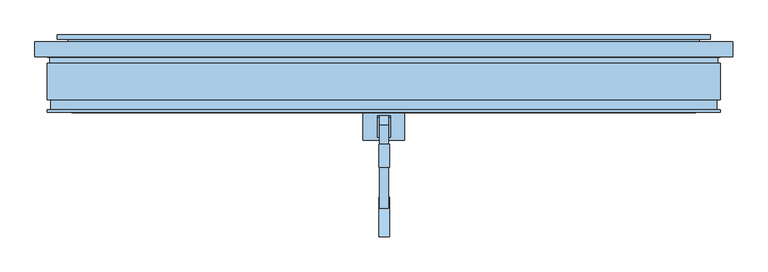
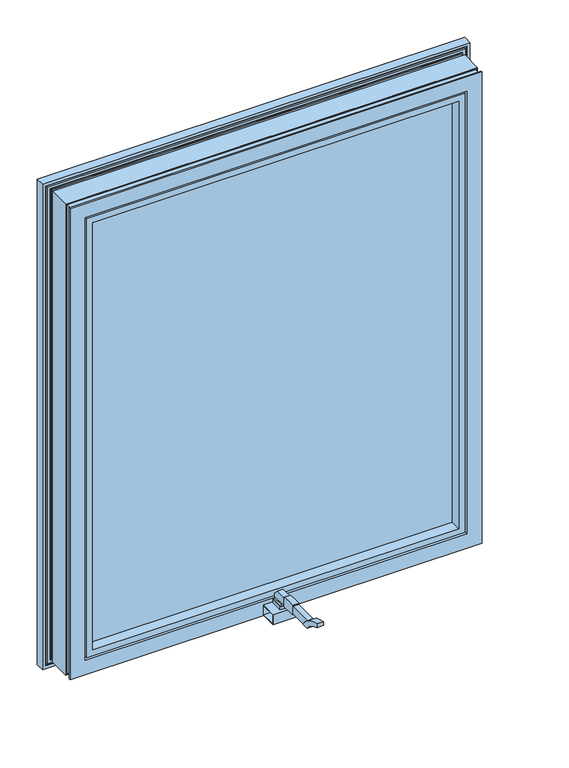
"""IFC4 building model written with IfcOpenShell, lengths in millimetres: window geometry, Comfort+_CKR-1_Metaglas : KozijnMerk."""

from ifc_helpers import new_model, si_unit, point, frame, frame_2d, origin, place, context, project, spatial, polyline, circle_curve, ellipse_curve, trimmed, segment, composite_curve, outline, extrude, faceted_brep, source, transform, mapped, element, save
from ifc_brep_helpers import plane_surface, cylinder_surface, extruded_surface, advanced_brep


def window_e89d8955(model_context):
    return source(origin(), model_context, "Body", "SolidModel", [
        extrude(outline(polyline([(-9.0, -55.284441), (10.0, -55.284441), (10.0, -83.3611653), (-9.0, -83.3611653), (-9.0, -55.284441)])), frame((0.0, 0.0, 844.5), z_axis=(0.0, 0.0, 1.0), x_axis=(1.0, 0.0, 0.0)), (0.0, 0.0, 1.0), 8.950006),
        extrude(outline(composite_curve([segment(polyline([(-96.3236284, 882.5887927), (-96.3236284, 859.5700029), (-129.3927548, 859.5700029), (-129.3927548, 882.5889399)]), True, "CONTINUOUS"), segment(trimmed(circle_curve(frame_2d((-112.8585409, 804.1500307)), 80.1626017), [point((-129.3927548, 882.5889399))], [point((-96.3236284, 882.5887927))], False, "CARTESIAN"), True, "CONTINUOUS")], self_intersect=False)), frame((-7.0, 0.0, 0.0), z_axis=(1.0, 0.0, 0.0), x_axis=(0.0, 1.0, 0.0)), (0.0, 0.0, 1.0), 15.0),
        extrude(outline(polyline([(10.0, -58.5425593), (10.0, -86.3809749), (-9.0, -86.3809749), (-9.0, -58.5425593), (10.0, -58.5425593)])), frame((0.0, 0.0, 853.5153382), z_axis=(0.0, 0.0, 1.0), x_axis=(1.0, 0.0, 0.0)), (0.0, 0.0, 1.0), 6.0546648),
        extrude(outline(composite_curve([segment(polyline([(-55.3223597, 867.0214623), (-55.3223597, 859.5700029), (-96.3236284, 859.5700029), (-96.3236284, 880.1499927), (-68.2804943, 880.1499927)]), True, "CONTINUOUS"), segment(trimmed(circle_curve(frame_2d((-118.3585627, 817.7626489)), 79.99996), [point((-68.2804943, 880.1499927))], [point((-55.3223597, 867.0214623))], False, "CARTESIAN"), True, "CONTINUOUS")], self_intersect=False)), frame((-6.0, 0.0, 0.0), z_axis=(1.0, 0.0, 0.0), x_axis=(0.0, 1.0, 0.0)), (0.0, 0.0, 1.0), 13.0),
        extrude(outline(composite_curve([segment(polyline([(-129.3927548, 861.6503614), (-172.0469414, 861.6503614)]), True, "CONTINUOUS"), segment(trimmed(circle_curve(frame_2d((-236.9307695, 820.7823169)), 76.6818636), [point((-172.0469414, 861.6503614))], [point((-188.3963767, 880.1499927))], True, "CARTESIAN"), True, "CONTINUOUS"), segment(polyline([(-188.3963767, 880.1499927), (-129.3927548, 880.1499927), (-129.3927548, 861.6503614)]), True, "CONTINUOUS")], self_intersect=False)), frame((-6.0, 0.0, 0.0), z_axis=(1.0, 0.0, 0.0), x_axis=(0.0, 1.0, 0.0)), (0.0, 0.0, 1.0), 13.0),
        advanced_brep(
        [(8.0, -187.7875946, 861.6503614), (8.0, -172.0469414, 861.6503614), (8.0, -228.9682216, 897.0496496), (8.0, -228.9682216, 888.163112), (-7.0, -187.7875946, 861.6503614), (-7.0, -228.9682216, 888.163112), (-7.0, -228.9682216, 897.0496496), (-7.0, -172.0469414, 861.6503614)],
        [
            (0, 1),
            (1, 2, circle_curve(frame((8.0, -236.9307695, 820.7823169), z_axis=(1.0, 0.0, 0.0), x_axis=(0.0, 1.0, 0.0)), 76.6818636)),
            (2, 3),
            (3, 0, ellipse_curve(frame((8.0, -249.6009221, 810.8697182), z_axis=(-1.0, 0.0, 0.0), x_axis=(0.0, 0.4613232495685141, -0.8872321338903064)), 80.0022115, 79.9970362)),
            (4, 5, ellipse_curve(frame((-7.0, -249.6009221, 810.8697182), z_axis=(1.0, 0.0, 0.0), x_axis=(0.0, 0.4613232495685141, -0.8872321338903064)), 80.0022115, 79.9970362)),
            (5, 6),
            (6, 7, circle_curve(frame((-7.0, -236.9307695, 820.7823169), z_axis=(-1.0, 0.0, 0.0), x_axis=(0.0, 1.0, 0.0)), 76.6818636)),
            (7, 4),
            (0, 4),
            (7, 1),
            (6, 2),
            (5, 3),
        ],
        [
            plane_surface(frame((8.0, -172.0469414, 861.6503614), z_axis=(1.0, 0.0, 0.0), x_axis=(0.0, 1.0, 0.0))),
            plane_surface(frame((-7.0, -172.0469414, 861.6503614), z_axis=(-1.0, 0.0, 0.0), x_axis=(0.0, -1.0, 0.0))),
            plane_surface(frame((8.0, -187.7875946, 861.6503614), z_axis=(0.0, 0.0, -1.0), x_axis=(-1.0, 0.0, 0.0))),
            cylinder_surface(frame((-7.0, -236.9307695, 820.7823169), z_axis=(1.0, 0.0, 0.0), x_axis=(0.0, 1.0, 0.0)), 76.6818636),
            plane_surface(frame((8.0, -228.9682216, 897.0496496), z_axis=(0.0, -1.0, 0.0), x_axis=(-1.0, 0.0, 0.0))),
            extruded_surface(trimmed(ellipse_curve(frame((-22.0, -249.6009221, 810.8697182), z_axis=(-1.0, 0.0, 0.0), x_axis=(0.0, 0.4613232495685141, -0.8872321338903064)), 80.0022115, 79.9970362), [point((-22.0, -228.9682216, 888.163112))], [point((-22.0, -187.7875946, 861.6503614))], True, "CARTESIAN"), (15.0, 0.0, 0.0), 15.0),
        ],
        [
            (0, [[1, 2, 3, 4]]),
            (1, [[5, 6, 7, 8]]),
            (2, [[-1, 9, -8, 10]]),
            (3, [[-2, -10, -7, 11]]),
            (4, [[-3, -11, -6, 12]]),
            (5, [[-4, -12, -5, -9]]),
        ],
    ),
        extrude(outline(polyline([(-442.0, 26.0), (442.0, 26.0), (442.0, 20.0), (-442.0, 20.0), (-442.0, 26.0)])), frame((0.0, 0.0, 858.0), z_axis=(0.0, 0.0, 1.0), x_axis=(1.0, 0.0, 0.0)), (0.0, 0.0, 1.0), 1084.0),
        extrude(outline(polyline([(-442.0, 5.0), (442.0, 5.0), (442.0, 0.5), (-442.0, 0.5), (-442.0, 5.0)])), frame((0.0, 0.0, 858.0), z_axis=(0.0, 0.0, 1.0), x_axis=(1.0, 0.0, 0.0)), (0.0, 0.0, 1.0), 1084.0),
        extrude(outline(polyline([(-442.0, -14.5), (442.0, -14.5), (442.0, -20.5), (-442.0, -20.5), (-442.0, -14.5)])), frame((0.0, 0.0, 858.0), z_axis=(0.0, 0.0, 1.0), x_axis=(1.0, 0.0, 0.0)), (0.0, 0.0, 1.0), 1084.0),
        extrude(outline(polyline([(858.0, -442.0), (858.0, 442.0), (1942.0, 442.0), (1942.0, -442.0), (858.0, -442.0)]), holes=[polyline([(1930.0, -430.0), (1930.0, 430.0), (870.0, 430.0), (870.0, -430.0), (1930.0, -430.0)])]), frame((0.0, 5.0, 0.0), z_axis=(0.0, 1.0, 0.0), x_axis=(0.0, 0.0, 1.0)), (0.0, 0.0, 1.0), 15.0),
        extrude(outline(polyline([(858.0, -442.0), (858.0, 442.0), (1942.0, 442.0), (1942.0, -442.0), (858.0, -442.0)]), holes=[polyline([(1930.0, -430.0), (1930.0, 430.0), (870.0, 430.0), (870.0, -430.0), (1930.0, -430.0)])]), frame((0.0, -14.5, 0.0), z_axis=(0.0, 1.0, 0.0), x_axis=(0.0, 0.0, 1.0)), (0.0, 0.0, 1.0), 15.0),
        faceted_brep([(427.9999691, 28.0000056, 1927.9999691), (427.9999691, 60.0, 1927.9999691), (427.9999691, 60.0, 872.0000309), (427.9999691, 28.0000056, 872.0000309), (468.0, 60.0, 1968.0), (468.0, 60.0, 832.0), (-468.0, 60.0, 832.0), (-468.0, 60.0, 1968.0), (-427.9999691, 60.0, 1927.9999691), (-427.9999691, 60.0, 872.0000309), (-427.9999691, 28.0000056, 872.0000309), (-444.0999691, 28.0000056, 1944.0999691), (-444.0999691, 28.0000056, 855.9000309), (444.0999691, 28.0000056, 855.9000309), (444.0999691, 28.0000056, 1944.0999691), (-427.9999691, 28.0000056, 1927.9999691), (444.0999691, -23.3943263, 1944.0999691), (444.0999691, -23.3943263, 855.9000309), (-444.0999691, -23.3943263, 855.9000309), (441.3734556, -24.3999751, 1941.3734556), (441.3734556, -24.3999751, 858.6265444), (-441.3734556, -24.3999751, 858.6265444), (-441.3734556, -24.3999751, 1941.3734556), (-434.2601913, -24.3999751, 1934.2601913), (-434.2601913, -24.3999751, 865.7398087), (434.2601913, -24.3999751, 865.7398087), (434.2601913, -24.3999751, 1934.2601913), (434.2601913, -27.610299, 1934.2601913), (434.2601913, -27.610299, 865.7398087), (-434.2601913, -27.610299, 865.7398087), (-434.2601913, -27.610299, 1934.2601913), (-430.3897468, -27.610299, 1930.3897468), (-430.3897468, -27.610299, 869.6102532), (430.3897468, -27.610299, 869.6102532), (430.3897468, -27.610299, 1930.3897468), (430.3897468, -24.3999751, 1930.3897468), (430.3897468, -24.3999751, 869.6102532), (-430.3897468, -24.3999751, 869.6102532), (-430.3897468, -24.3999751, 1930.3897468), (-427.9999691, -24.3999751, 1927.9999691), (-427.9999691, -24.3999751, 872.0000309), (427.9999691, -24.3999751, 872.0000309), (427.9999691, -24.3999751, 1927.9999691), (427.9999691, -50.3999751, 1927.9999691), (427.9999691, -50.3999751, 872.0000309), (-427.9999691, -50.3999751, 872.0000309), (-442.3999232, -50.3999751, 1942.3999232), (-442.3999232, -50.3999751, 857.6000768), (442.3999232, -50.3999751, 857.6000768), (442.3999232, -50.3999751, 1942.3999232), (-427.9999691, -50.3999751, 1927.9999691), (442.3999232, -35.8749751, 1942.3999232), (442.3999232, -35.8749751, 857.6000768), (-442.3999232, -35.8749751, 857.6000768), (-442.3999232, -35.8749751, 1942.3999232), (-440.0499232, -35.8749751, 1940.0499232), (-440.0499232, -35.8749751, 859.9500768), (440.0499232, -35.8749751, 859.9500768), (440.0499232, -35.8749751, 1940.0499232), (440.0499232, -32.9249751, 1940.0499232), (440.0499232, -32.9249751, 859.9500768), (-440.0499232, -32.9249751, 859.9500768), (-442.3999232, -32.9249751, 1942.3999232), (-442.3999232, -32.9249751, 857.6000768), (442.3999232, -32.9249751, 857.6000768), (442.3999232, -32.9249751, 1942.3999232), (-440.0499232, -32.9249751, 1940.0499232), (442.3999232, -27.9527642, 1942.3999232), (442.3999232, -27.9527642, 857.6000768), (-442.3999232, -27.9527642, 857.6000768), (444.4527122, -25.8999751, 1944.4527122), (444.4527122, -25.8999751, 855.5472878), (-444.4527122, -25.8999751, 855.5472878), (-452.5013297, -25.8999751, 1952.5013297), (-452.5013297, -25.8999751, 847.4986703), (452.5013297, -25.8999751, 847.4986703), (452.5013297, -25.8999751, 1952.5013297), (-444.4527122, -25.8999751, 1944.4527122), (452.5013297, 33.0500056, 1952.5013297), (452.5013297, 33.0500056, 847.4986703), (-452.5013297, 33.0500056, 847.4986703), (-452.5013297, 33.0500056, 1952.5013297), (-451.0, 33.0500056, 1951.0), (-451.0, 33.0500056, 849.0), (451.0, 33.0500056, 849.0), (451.0, 33.0500056, 1951.0), (451.0, 30.5500056, 1951.0), (451.0, 30.5500056, 849.0), (-451.0, 30.5500056, 849.0), (-451.0, 30.5500056, 1951.0), (-447.993792, 30.5500056, 1947.993792), (-447.993792, 30.5500056, 852.006208), (447.993792, 30.5500056, 852.006208), (447.993792, 30.5500056, 1947.993792), (447.993792, 33.0500056, 1947.993792), (447.993792, 33.0500056, 852.006208), (-447.993792, 33.0500056, 852.006208), (-447.993792, 33.0500056, 1947.993792), (-446.50005, 33.0500056, 1946.50005), (-446.50005, 33.0500056, 853.49995), (446.50005, 33.0500056, 853.49995), (446.50005, 33.0500056, 1946.50005), (446.50005, 48.049079, 1946.50005), (446.50005, 48.049079, 853.49995), (-446.50005, 48.049079, 853.49995), (-448.00002, 48.049079, 1948.00002), (-448.00002, 48.049079, 851.99998), (448.00002, 48.049079, 851.99998), (448.00002, 48.049079, 1948.00002), (-446.50005, 48.049079, 1946.50005), (448.00002, 50.549712, 1948.00002), (448.00002, 50.549712, 851.99998), (-448.00002, 50.549712, 851.99998), (-451.0, 50.549712, 1951.0), (-451.0, 50.549712, 849.0), (451.0, 50.549712, 849.0), (451.0, 50.549712, 1951.0), (-448.00002, 50.549712, 1948.00002), (451.0, 48.049079, 1951.0), (451.0, 48.049079, 849.0), (-451.0, 48.049079, 849.0), (-452.5013297, 48.049079, 1952.5013297), (-452.5013297, 48.049079, 847.4986703), (452.5013297, 48.049079, 847.4986703), (452.5013297, 48.049079, 1952.5013297), (-451.0, 48.049079, 1951.0), (452.5013297, 54.0000056, 1952.5013297), (452.5013297, 54.0000056, 847.4986703), (-452.5013297, 54.0000056, 847.4986703), (-462.0431852, 54.0000056, 1962.0431852), (-462.0431852, 54.0000056, 837.9568148), (462.0431852, 54.0000056, 837.9568148), (462.0431852, 54.0000056, 1962.0431852), (-452.5013297, 54.0000056, 1952.5013297), (462.0431852, 57.3536919, 1962.0431852), (462.0431852, 57.3536919, 837.9568148), (-462.0431852, 57.3536919, 837.9568148), (-465.9068148, 57.3536919, 1965.9068148), (-465.9068148, 57.3536919, 834.0931852), (465.9068148, 57.3536919, 834.0931852), (465.9068148, 57.3536919, 1965.9068148), (-462.0431852, 57.3536919, 1962.0431852), (465.9068148, 54.0000056, 1965.9068148), (465.9068148, 54.0000056, 834.0931852), (-465.9068148, 54.0000056, 834.0931852), (-468.0, 54.0000056, 1968.0), (-468.0, 54.0000056, 832.0), (468.0, 54.0000056, 832.0), (468.0, 54.0000056, 1968.0), (-465.9068148, 54.0000056, 1965.9068148), (-444.0999691, -23.3943263, 1944.0999691), (-442.3999232, -27.9527642, 1942.3999232)], [[[0, 1, 2, 3]], [[4, 5, 6, 7], [8, 9, 2, 1]], [[3, 2, 9, 10]], [[11, 12, 13, 14], [0, 3, 10, 15]], [[16, 14, 13, 17]], [[17, 13, 12, 18]], [[19, 16, 17, 20]], [[20, 17, 18, 21]], [[19, 20, 21, 22], [23, 24, 25, 26]], [[27, 26, 25, 28]], [[28, 25, 24, 29]], [[27, 28, 29, 30], [31, 32, 33, 34]], [[35, 34, 33, 36]], [[36, 33, 32, 37]], [[35, 36, 37, 38], [39, 40, 41, 42]], [[43, 42, 41, 44]], [[44, 41, 40, 45]], [[46, 47, 48, 49], [43, 44, 45, 50]], [[51, 49, 48, 52]], [[52, 48, 47, 53]], [[51, 52, 53, 54], [55, 56, 57, 58]], [[59, 58, 57, 60]], [[60, 57, 56, 61]], [[62, 63, 64, 65], [59, 60, 61, 66]], [[67, 65, 64, 68]], [[68, 64, 63, 69]], [[70, 67, 68, 71]], [[71, 68, 69, 72]], [[73, 74, 75, 76], [70, 71, 72, 77]], [[78, 76, 75, 79]], [[79, 75, 74, 80]], [[78, 79, 80, 81], [82, 83, 84, 85]], [[86, 85, 84, 87]], [[87, 84, 83, 88]], [[86, 87, 88, 89], [90, 91, 92, 93]], [[94, 93, 92, 95]], [[95, 92, 91, 96]], [[94, 95, 96, 97], [98, 99, 100, 101]], [[102, 101, 100, 103]], [[103, 100, 99, 104]], [[105, 106, 107, 108], [102, 103, 104, 109]], [[110, 108, 107, 111]], [[111, 107, 106, 112]], [[113, 114, 115, 116], [110, 111, 112, 117]], [[118, 116, 115, 119]], [[119, 115, 114, 120]], [[121, 122, 123, 124], [118, 119, 120, 125]], [[126, 124, 123, 127]], [[127, 123, 122, 128]], [[129, 130, 131, 132], [126, 127, 128, 133]], [[134, 132, 131, 135]], [[135, 131, 130, 136]], [[137, 138, 139, 140], [134, 135, 136, 141]], [[142, 140, 139, 143]], [[143, 139, 138, 144]], [[145, 146, 147, 148], [142, 143, 144, 149]], [[4, 148, 147, 5]], [[5, 147, 146, 6]], [[10, 9, 8, 15]], [[18, 12, 11, 150]], [[21, 18, 150, 22]], [[29, 24, 23, 30]], [[37, 32, 31, 38]], [[45, 40, 39, 50]], [[53, 47, 46, 54]], [[61, 56, 55, 66]], [[69, 63, 62, 151]], [[72, 69, 151, 77]], [[80, 74, 73, 81]], [[88, 83, 82, 89]], [[96, 91, 90, 97]], [[104, 99, 98, 109]], [[112, 106, 105, 117]], [[120, 114, 113, 125]], [[128, 122, 121, 133]], [[136, 130, 129, 141]], [[144, 138, 137, 149]], [[6, 146, 145, 7]], [[15, 8, 1, 0]], [[150, 11, 14, 16]], [[22, 150, 16, 19]], [[30, 23, 26, 27]], [[38, 31, 34, 35]], [[50, 39, 42, 43]], [[54, 46, 49, 51]], [[66, 55, 58, 59]], [[151, 62, 65, 67]], [[77, 151, 67, 70]], [[81, 73, 76, 78]], [[89, 82, 85, 86]], [[97, 90, 93, 94]], [[109, 98, 101, 102]], [[117, 105, 108, 110]], [[125, 113, 116, 118]], [[133, 121, 124, 126]], [[141, 129, 132, 134]], [[149, 137, 140, 142]], [[7, 145, 148, 4]]]),
        faceted_brep([(-492.8725928, 32.3765351, 1992.8725928), (-492.8725928, 29.0, 1992.8725928), (-492.8725928, 29.0, 807.1274072), (-492.8725928, 32.3765351, 807.1274072), (-500.0, 29.0, 800.0), (500.0, 29.0, 800.0), (500.0, 29.0, 2000.0), (-500.0, 29.0, 2000.0), (492.8725928, 29.0, 1992.8725928), (492.8725928, 29.0, 807.1274072), (492.8725928, 32.3765351, 807.1274072), (492.8725928, 32.3765351, 1992.8725928), (-489.0089631, 32.3765351, 1989.0089631), (489.0089631, 32.3765351, 1989.0089631), (489.0089631, 32.3765351, 810.9910369), (-489.0089631, 32.3765351, 810.9910369), (-489.0089631, 29.0, 1989.0089631), (-489.0089631, 29.0, 810.9910369), (489.0089631, 29.0, 810.9910369), (489.0089631, 29.0, 1989.0089631), (-481.9850614, 29.0, 1981.9850614), (481.9850614, 29.0, 1981.9850614), (481.9850614, 29.0, 818.0149386), (-481.9850614, 29.0, 818.0149386), (-481.9850614, 27.9608904, 1981.9850614), (-481.9850614, 27.9608904, 818.0149386), (481.9850614, 27.9608904, 818.0149386), (481.9850614, 27.9608904, 1981.9850614), (-478.7447337, 27.9608904, 1978.7447337), (478.7447337, 27.9608904, 1978.7447337), (478.7447337, 27.9608904, 821.2552663), (-478.7447337, 27.9608904, 821.2552663), (-478.7447337, 19.1940428, 1978.7447337), (-478.7447337, 19.1940428, 821.2552663), (478.7447337, 19.1940428, 821.2552663), (-481.9850614, 19.1940428, 1981.9850614), (481.9850614, 19.1940428, 1981.9850614), (481.9850614, 19.1940428, 818.0149386), (-481.9850614, 19.1940428, 818.0149386), (478.7447337, 19.1940428, 1978.7447337), (-481.9850614, -33.0, 1981.9850614), (-481.9850614, -33.0, 818.0149386), (481.9850614, -33.0, 818.0149386), (481.9850614, -33.0, 1981.9850614), (-480.4999232, -33.0, 1980.4999232), (480.4999232, -33.0, 1980.4999232), (480.4999232, -33.0, 819.5000768), (-480.4999232, -33.0, 819.5000768), (-480.4999232, -31.0, 1980.4999232), (-480.4999232, -31.0, 819.5000768), (480.4999232, -31.0, 819.5000768), (480.4999232, -31.0, 1980.4999232), (-477.4912716, -31.0, 1977.4912716), (477.4912716, -31.0, 1977.4912716), (477.4912716, -31.0, 822.5087284), (-477.4912716, -31.0, 822.5087284), (-477.4912716, -49.0, 1977.4912716), (-477.4912716, -49.0, 822.5087284), (477.4912716, -49.0, 822.5087284), (-480.4999232, -49.0, 1980.4999232), (480.4999232, -49.0, 1980.4999232), (480.4999232, -49.0, 819.5000768), (-480.4999232, -49.0, 819.5000768), (477.4912716, -49.0, 1977.4912716), (-480.4999232, -47.0, 1980.4999232), (-480.4999232, -47.0, 819.5000768), (480.4999232, -47.0, 819.5000768), (-481.9850614, -47.0, 1981.9850614), (481.9850614, -47.0, 1981.9850614), (481.9850614, -47.0, 818.0149386), (-481.9850614, -47.0, 818.0149386), (480.4999232, -47.0, 1980.4999232), (-481.9850614, -51.0307326, 1981.9850614), (-481.9850614, -51.0307326, 818.0149386), (481.9850614, -51.0307326, 818.0149386), (481.9850614, -51.0307326, 1981.9850614), (-446.9850614, -51.0307326, 1946.9850614), (446.9850614, -51.0307326, 1946.9850614), (446.9850614, -51.0307326, 853.0149386), (-446.9850614, -51.0307326, 853.0149386), (-446.9850614, -30.0, 1946.9850614), (-446.9850614, -30.0, 853.0149386), (446.9850614, -30.0, 853.0149386), (-454.1273304, -30.0, 1954.1273304), (454.1273304, -30.0, 1954.1273304), (454.1273304, -30.0, 845.8726696), (-454.1273304, -30.0, 845.8726696), (446.9850614, -30.0, 1946.9850614), (-454.1273304, -33.1902947, 1954.1273304), (-454.1273304, -33.1902947, 845.8726696), (454.1273304, -33.1902947, 845.8726696), (-457.9909601, -33.1902947, 1957.9909601), (457.9909601, -33.1902947, 1957.9909601), (457.9909601, -33.1902947, 842.0090399), (-457.9909601, -33.1902947, 842.0090399), (454.1273304, -33.1902947, 1954.1273304), (-457.9909601, -30.0, 1957.9909601), (-457.9909601, -30.0, 842.0090399), (457.9909601, -30.0, 842.0090399), (-465.0, -30.0, 1965.0), (465.0, -30.0, 1965.0), (465.0, -30.0, 835.0), (-465.0, -30.0, 835.0), (457.9909601, -30.0, 1957.9909601), (-465.0, -28.9608904, 1965.0), (-465.0, -28.9608904, 835.0), (465.0, -28.9608904, 835.0), (-468.2224333, -28.9608904, 1968.2224333), (468.2224333, -28.9608904, 1968.2224333), (468.2224333, -28.9608904, 831.7775667), (-468.2224333, -28.9608904, 831.7775667), (465.0, -28.9608904, 1965.0), (-468.2224333, -20.1940428, 1968.2224333), (-468.2224333, -20.1940428, 831.7775667), (468.2224333, -20.1940428, 831.7775667), (468.2224333, -20.1940428, 1968.2224333), (-465.0, -20.1940428, 1965.0), (465.0, -20.1940428, 1965.0), (465.0, -20.1940428, 835.0), (-465.0, -20.1940428, 835.0), (-465.0, 32.0, 1965.0), (-465.0, 32.0, 835.0), (465.0, 32.0, 835.0), (-466.502736, 32.0, 1966.502736), (466.502736, 32.0, 1966.502736), (466.502736, 32.0, 833.497264), (-466.502736, 32.0, 833.497264), (465.0, 32.0, 1965.0), (-466.502736, 30.0, 1966.502736), (-466.502736, 30.0, 833.497264), (466.502736, 30.0, 833.497264), (-469.5, 30.0, 1969.5), (469.5, 30.0, 1969.5), (469.5, 30.0, 830.5), (-469.5, 30.0, 830.5), (466.502736, 30.0, 1966.502736), (-469.5, 48.0, 1969.5), (-469.5, 48.0, 830.5), (469.5, 48.0, 830.5), (469.5, 48.0, 1969.5), (-466.5, 48.0, 1966.5), (466.5, 48.0, 1966.5), (466.5, 48.0, 833.5), (-466.5, 48.0, 833.5), (-466.5, 46.0, 1966.5), (-466.5, 46.0, 833.5), (466.5, 46.0, 833.5), (466.5, 46.0, 1966.5), (-465.0, 46.0, 1965.0), (465.0, 46.0, 1965.0), (465.0, 46.0, 835.0), (-465.0, 46.0, 835.0), (-465.0, 50.0, 1965.0), (-465.0, 50.0, 835.0), (465.0, 50.0, 835.0), (-500.0, 50.0, 2000.0), (500.0, 50.0, 2000.0), (500.0, 50.0, 800.0), (-500.0, 50.0, 800.0), (465.0, 50.0, 1965.0)], [[[0, 1, 2, 3]], [[4, 5, 6, 7], [1, 8, 9, 2]], [[3, 2, 9, 10]], [[3, 10, 11, 0], [12, 13, 14, 15]], [[16, 12, 15, 17]], [[17, 15, 14, 18]], [[17, 18, 19, 16], [20, 21, 22, 23]], [[24, 20, 23, 25]], [[25, 23, 22, 26]], [[25, 26, 27, 24], [28, 29, 30, 31]], [[32, 28, 31, 33]], [[33, 31, 30, 34]], [[35, 36, 37, 38], [33, 34, 39, 32]], [[40, 35, 38, 41]], [[41, 38, 37, 42]], [[41, 42, 43, 40], [44, 45, 46, 47]], [[48, 44, 47, 49]], [[49, 47, 46, 50]], [[49, 50, 51, 48], [52, 53, 54, 55]], [[56, 52, 55, 57]], [[57, 55, 54, 58]], [[59, 60, 61, 62], [57, 58, 63, 56]], [[64, 59, 62, 65]], [[65, 62, 61, 66]], [[67, 68, 69, 70], [65, 66, 71, 64]], [[72, 67, 70, 73]], [[73, 70, 69, 74]], [[73, 74, 75, 72], [76, 77, 78, 79]], [[80, 76, 79, 81]], [[81, 79, 78, 82]], [[83, 84, 85, 86], [81, 82, 87, 80]], [[88, 83, 86, 89]], [[89, 86, 85, 90]], [[91, 92, 93, 94], [89, 90, 95, 88]], [[96, 91, 94, 97]], [[97, 94, 93, 98]], [[99, 100, 101, 102], [97, 98, 103, 96]], [[104, 99, 102, 105]], [[105, 102, 101, 106]], [[107, 108, 109, 110], [105, 106, 111, 104]], [[112, 107, 110, 113]], [[113, 110, 109, 114]], [[113, 114, 115, 112], [116, 117, 118, 119]], [[120, 116, 119, 121]], [[121, 119, 118, 122]], [[123, 124, 125, 126], [121, 122, 127, 120]], [[128, 123, 126, 129]], [[129, 126, 125, 130]], [[131, 132, 133, 134], [129, 130, 135, 128]], [[136, 131, 134, 137]], [[137, 134, 133, 138]], [[137, 138, 139, 136], [140, 141, 142, 143]], [[144, 140, 143, 145]], [[145, 143, 142, 146]], [[145, 146, 147, 144], [148, 149, 150, 151]], [[152, 148, 151, 153]], [[153, 151, 150, 154]], [[155, 156, 157, 158], [153, 154, 159, 152]], [[7, 155, 158, 4]], [[4, 158, 157, 5]], [[10, 9, 8, 11]], [[18, 14, 13, 19]], [[26, 22, 21, 27]], [[34, 30, 29, 39]], [[42, 37, 36, 43]], [[50, 46, 45, 51]], [[58, 54, 53, 63]], [[66, 61, 60, 71]], [[74, 69, 68, 75]], [[82, 78, 77, 87]], [[90, 85, 84, 95]], [[98, 93, 92, 103]], [[106, 101, 100, 111]], [[114, 109, 108, 115]], [[122, 118, 117, 127]], [[130, 125, 124, 135]], [[138, 133, 132, 139]], [[146, 142, 141, 147]], [[154, 150, 149, 159]], [[5, 157, 156, 6]], [[11, 8, 1, 0]], [[19, 13, 12, 16]], [[27, 21, 20, 24]], [[39, 29, 28, 32]], [[43, 36, 35, 40]], [[51, 45, 44, 48]], [[63, 53, 52, 56]], [[71, 60, 59, 64]], [[75, 68, 67, 72]], [[87, 77, 76, 80]], [[95, 84, 83, 88]], [[103, 92, 91, 96]], [[111, 100, 99, 104]], [[115, 108, 107, 112]], [[127, 117, 116, 120]], [[135, 124, 123, 128]], [[139, 132, 131, 136]], [[147, 141, 140, 144]], [[159, 149, 148, 152]], [[6, 156, 155, 7]]]),
        extrude(outline(polyline([(-91.0307326, 819.5), (-91.0307326, 844.5), (-51.0307326, 844.5), (-51.0307326, 819.5), (-91.0307326, 819.5)]), holes=[polyline([(-53.0307326, 842.5), (-89.0307326, 842.5), (-89.0307326, 821.5), (-53.0307326, 821.5), (-53.0307326, 842.5)])]), frame((-30.0, 0.0, 0.0), z_axis=(1.0, 0.0, 0.0), x_axis=(0.0, 1.0, 0.0)), (0.0, 0.0, 1.0), 60.0),
    ])


if __name__ == "__main__":
    model = new_model("IFC4")
    model_context = context("Model", 3, world=origin())
    ifc_project = project(units=[si_unit("LENGTHUNIT", "METRE", prefix="MILLI")], contexts=[model_context])
    site = spatial("IfcSite", under=ifc_project)
    building = spatial("IfcBuilding", under=site)
    placement = place(None, origin())
    window_shape = window_e89d8955(model_context)
    element("IfcWindow", 1, ObjectType="Comfort+_CKR-1_Metaglas : KozijnMerk", at=placement, inside=building, context=model_context, shape_type="MappedRepresentation", body=[
        mapped(window_shape, transform((0.0, 0.0, 0.0), x_axis=(1.0, 0.0, 0.0), y_axis=(0.0, 1.0, 0.0), z_axis=(0.0, 0.0, 1.0))),
    ])
    save(model, "model.ifc")
